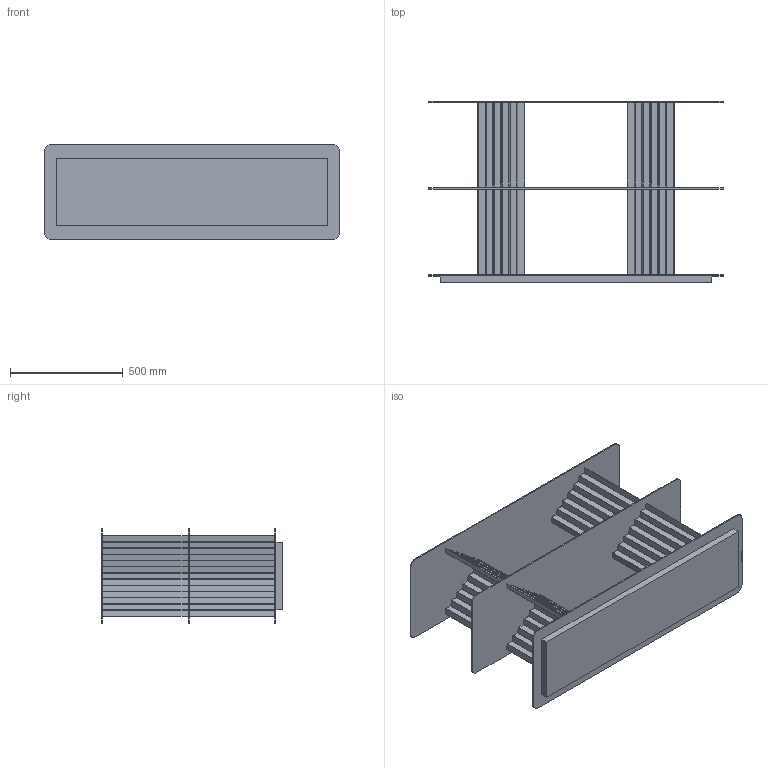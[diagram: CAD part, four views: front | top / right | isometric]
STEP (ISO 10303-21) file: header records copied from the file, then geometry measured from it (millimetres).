
FILE_DESCRIPTION (( 'STEP AP203' ), '1' );
FILE_NAME ('PLEC SHELVES XS 2 NIVELES.STEP', '2025-05-08T10:14:33', ( '' ), ( '' ), 'SwSTEP 2.0', 'SolidWorks 2020', '' );
FILE_SCHEMA (( 'CONFIG_CONTROL_DESIGN' ));
Length unit declared in the file: millimetre
Products named in the file (1): PLEC SHELVES XS 2 NIVELES
Bounding box: 1305 x 803 x 420 mm (x, y, z)
Volume: 20650563.2 mm3; surface area: 6345683.4 mm2
Topology: 8 solids, 8 shells, 252 faces, 708 edges, 472 vertices
Faces by surface type: plane 240, cylinder 12
Entity records: 8039 total; most frequent: CARTESIAN_POINT 1433, ORIENTED_EDGE 1416, DIRECTION 1238, EDGE_CURVE 708, LINE 684, VECTOR 684, VERTEX_POINT 472, AXIS2_PLACEMENT_3D 277
